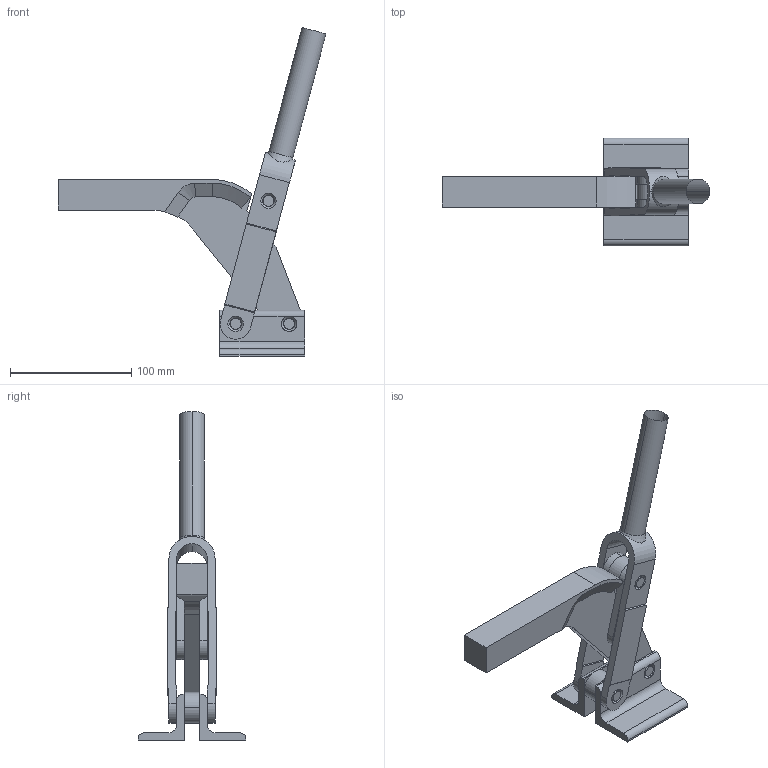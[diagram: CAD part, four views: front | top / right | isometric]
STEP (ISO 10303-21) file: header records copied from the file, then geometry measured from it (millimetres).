
FILE_DESCRIPTION( ( '' ), '1' );
FILE_NAME( 'C:\Documents and Settings\Richard Grenzke\My Documents\Wolverine Company Data\WOLVERINE CD 5_17_05\SOLIDS STEP\hold_down\cq1115a.stp', ' ', ( '' ), ( '' ), 'ACIS Interop R16', 'Kubotek KeyCreator V5.5.1 (0454)', ' ' );
FILE_SCHEMA( ( 'CONFIG_CONTROL_DESIGN' ) );
Length unit declared in the file: millimetre
Products named in the file (183): 1; 2; 3; 4; 5; 6; 7; 8; 9; 10; 11; 12; 13; 14; 15; 16; 17; 18; 19; 20; 21; 22; 23; 24; 25; 26; 27; 28; 29; 30; 31; 32; 33; 34; 35; 36; 37; 38; 39; 40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
Bounding box: 220.82 x 88.9 x 271.17 mm (x, y, z)
Volume: 12870.4 mm3; surface area: 95907.3 mm2
Topology: 2 solids, 183 shells, 189 faces, 904 edges, 900 vertices
Faces by surface type: plane 85, cylinder 76, cone 24, bspline 4
Entity records: 18227 total; most frequent: CARTESIAN_POINT 2588, DIRECTION 1926, ORIENTED_EDGE 916, CC_DESIGN_PERSON_AND_ORGANIZATION_ASSIGNMENT 915, EDGE_CURVE 904, VERTEX_POINT 900, PERSON_AND_ORGANIZATION_ROLE 732, AXIS2_PLACEMENT_3D 696
